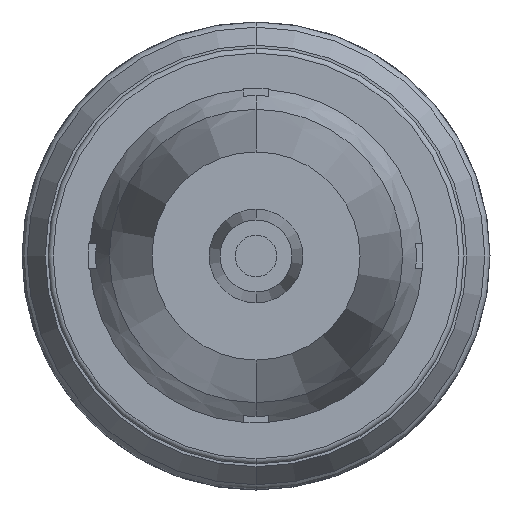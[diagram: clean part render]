
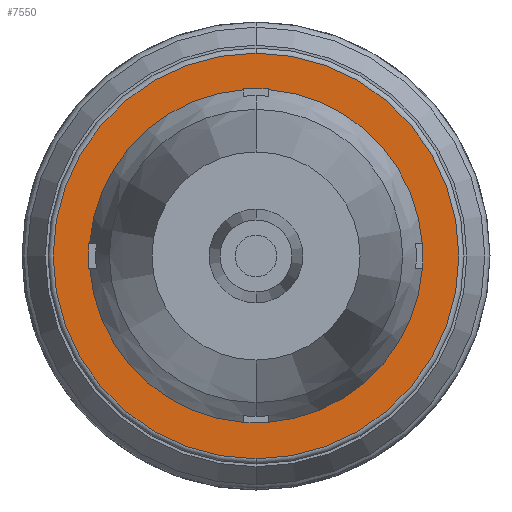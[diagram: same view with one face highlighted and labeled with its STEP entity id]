
A CAD part, front view. The second image highlights one B-rep face of the part: STEP entity #7550.
In plain terms, the highlighted planar face has unit normal (0, -1, 0).
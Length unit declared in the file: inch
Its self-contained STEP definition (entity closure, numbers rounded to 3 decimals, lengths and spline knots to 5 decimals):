
#1331 = CARTESIAN_POINT ( 'NONE',  ( 0.12125, 5.5, -1.60481 ) ) ;
#1332 = DIRECTION ( 'NONE',  ( -0.001, 0., 1. ) ) ;
#1333 = VECTOR ( 'NONE', #1332, 39.37008 ) ;
#1334 = CARTESIAN_POINT ( 'NONE',  ( 0.12125, 5.5, -1.60481 ) ) ;
#1335 = LINE ( 'NONE', #1334, #1333 ) ;
#1371 = CARTESIAN_POINT ( 'NONE',  ( -0.11712, 5.5, -1.60481 ) ) ;
#1372 = DIRECTION ( 'NONE',  ( 1., 0., 0. ) ) ;
#1373 = VECTOR ( 'NONE', #1372, 39.37008 ) ;
#1374 = CARTESIAN_POINT ( 'NONE',  ( -0.11712, 5.5, -1.60481 ) ) ;
#1375 = LINE ( 'NONE', #1374, #1373 ) ;
#4362 = CARTESIAN_POINT ( 'NONE',  ( -0.12132, 5.5, 1.599 ) ) ;
#4829 = CARTESIAN_POINT ( 'NONE',  ( 0., 5.5, 1.95 ) ) ;
#4884 = CARTESIAN_POINT ( 'NONE',  ( 0., 5.5, -1.95 ) ) ;
#4885 = DIRECTION ( 'NONE',  ( 0., 0., 1. ) ) ;
#4886 = DIRECTION ( 'NONE',  ( 0., -1., 0. ) ) ;
#4887 = CARTESIAN_POINT ( 'NONE',  ( 0., 5.5, 0. ) ) ;
#4888 = AXIS2_PLACEMENT_3D ( 'NONE', #4887, #4886, #4885 ) ;
#4894 = CIRCLE ( 'NONE', #4888, 1.95 ) ;
#5235 = DIRECTION ( 'NONE',  ( -1., 0., -0.001 ) ) ;
#5236 = VECTOR ( 'NONE', #5235, 39.37008 ) ;
#5237 = CARTESIAN_POINT ( 'NONE',  ( -0.11938, 5.5, 0.11916 ) ) ;
#5238 = LINE ( 'NONE', #5237, #5236 ) ;
#5239 = CARTESIAN_POINT ( 'NONE',  ( -1.60863, 5.5, 0.1174 ) ) ;
#5240 = DIRECTION ( 'NONE',  ( 0., 0., -1. ) ) ;
#5241 = VECTOR ( 'NONE', #5240, 39.37008 ) ;
#5242 = CARTESIAN_POINT ( 'NONE',  ( -1.60863, 5.5, 0.1174 ) ) ;
#5243 = LINE ( 'NONE', #5242, #5241 ) ;
#5304 = CARTESIAN_POINT ( 'NONE',  ( -1.60863, 5.5, -0.12111 ) ) ;
#5305 = DIRECTION ( 'NONE',  ( -1., 0., -0.001 ) ) ;
#5306 = VECTOR ( 'NONE', #5305, 39.37008 ) ;
#5307 = CARTESIAN_POINT ( 'NONE',  ( -0.11907, 5.5, -0.11926 ) ) ;
#5308 = LINE ( 'NONE', #5307, #5306 ) ;
#5309 = CARTESIAN_POINT ( 'NONE',  ( -1.59902, 5.5, -0.1211 ) ) ;
#5310 = DIRECTION ( 'NONE',  ( 0., 0., -1. ) ) ;
#5311 = DIRECTION ( 'NONE',  ( 0., -1., 0. ) ) ;
#5312 = AXIS2_PLACEMENT_3D ( 'NONE', #5314, #5311, #5310 ) ;
#5313 = CIRCLE ( 'NONE', #5312, 1.60359 ) ;
#5314 = CARTESIAN_POINT ( 'NONE',  ( 0., 5.5, 0. ) ) ;
#5315 = DIRECTION ( 'NONE',  ( -0.001, 0., 1. ) ) ;
#5316 = VECTOR ( 'NONE', #5315, 39.37008 ) ;
#5317 = CARTESIAN_POINT ( 'NONE',  ( -0.11712, 5.5, -1.60481 ) ) ;
#5318 = LINE ( 'NONE', #5317, #5316 ) ;
#5319 = DIRECTION ( 'NONE',  ( 0., 0., 1. ) ) ;
#5320 = DIRECTION ( 'NONE',  ( 0., -1., 0. ) ) ;
#5321 = AXIS2_PLACEMENT_3D ( 'NONE', #5326, #5320, #5319 ) ;
#5322 = CIRCLE ( 'NONE', #5321, 1.95 ) ;
#5323 = DIRECTION ( 'NONE',  ( 0., 0., 1. ) ) ;
#5324 = DIRECTION ( 'NONE',  ( 0., 1., 0. ) ) ;
#5325 = AXIS2_PLACEMENT_3D ( 'NONE', #5327, #5324, #5323 ) ;
#5326 = CARTESIAN_POINT ( 'NONE',  ( 0., 5.5, 0. ) ) ;
#5327 = CARTESIAN_POINT ( 'NONE',  ( 0., 5.5, 0. ) ) ;
#5328 = PLANE ( 'NONE',  #5325 ) ;
#5329 = FACE_BOUND ( 'NONE', #7700, .T. ) ;
#5333 = FACE_OUTER_BOUND ( 'NONE', #7747, .T. ) ;
#5367 = DIRECTION ( 'NONE',  ( 1., 0., 0. ) ) ;
#5368 = VECTOR ( 'NONE', #5367, 39.37008 ) ;
#5369 = CARTESIAN_POINT ( 'NONE',  ( -0.12133, 5.5, 1.60717 ) ) ;
#5370 = LINE ( 'NONE', #5369, #5368 ) ;
#5371 = CARTESIAN_POINT ( 'NONE',  ( -0.12133, 5.5, 1.60717 ) ) ;
#5372 = DIRECTION ( 'NONE',  ( -0.001, 0., 1. ) ) ;
#5373 = VECTOR ( 'NONE', #5372, 39.37008 ) ;
#5374 = CARTESIAN_POINT ( 'NONE',  ( -0.11938, 5.5, 0.11916 ) ) ;
#5375 = LINE ( 'NONE', #5374, #5373 ) ;
#5689 = CARTESIAN_POINT ( 'NONE',  ( -1.59929, 5.5, 0.11741 ) ) ;
#5690 = CARTESIAN_POINT ( 'NONE',  ( -0.11713, 5.5, -1.59931 ) ) ;
#5691 = CARTESIAN_POINT ( 'NONE',  ( 0.12125, 5.5, -1.599 ) ) ;
#5692 = DIRECTION ( 'NONE',  ( 0., 0., -1. ) ) ;
#5693 = DIRECTION ( 'NONE',  ( 0., -1., 0. ) ) ;
#5694 = CARTESIAN_POINT ( 'NONE',  ( 0., 5.5, 0. ) ) ;
#5695 = AXIS2_PLACEMENT_3D ( 'NONE', #5694, #5693, #5692 ) ;
#5696 = CIRCLE ( 'NONE', #5695, 1.60359 ) ;
#5701 = CIRCLE ( 'NONE', #5790, 1.60359 ) ;
#5787 = DIRECTION ( 'NONE',  ( 0., 0., -1. ) ) ;
#5788 = DIRECTION ( 'NONE',  ( 0., -1., 0. ) ) ;
#5789 = CARTESIAN_POINT ( 'NONE',  ( 0., 5.5, 0. ) ) ;
#5790 = AXIS2_PLACEMENT_3D ( 'NONE', #5789, #5788, #5787 ) ;
#5804 = DIRECTION ( 'NONE',  ( -0.001, 0., 1. ) ) ;
#5805 = VECTOR ( 'NONE', #5804, 39.37008 ) ;
#5806 = CARTESIAN_POINT ( 'NONE',  ( 0.11913, 5.5, 0.11944 ) ) ;
#5807 = LINE ( 'NONE', #5806, #5805 ) ;
#5808 = CARTESIAN_POINT ( 'NONE',  ( 1.59901, 5.5, 0.12118 ) ) ;
#6225 = CARTESIAN_POINT ( 'NONE',  ( 0.11729, 5.5, 1.60717 ) ) ;
#6226 = CARTESIAN_POINT ( 'NONE',  ( 0.1173, 5.5, 1.5993 ) ) ;
#6227 = CARTESIAN_POINT ( 'NONE',  ( 1.59931, 5.5, -0.11712 ) ) ;
#6228 = DIRECTION ( 'NONE',  ( -1., 0., -0.001 ) ) ;
#6229 = VECTOR ( 'NONE', #6228, 39.37008 ) ;
#6230 = CARTESIAN_POINT ( 'NONE',  ( 1.60469, 5.5, -0.11711 ) ) ;
#6231 = LINE ( 'NONE', #6230, #6229 ) ;
#6258 = CARTESIAN_POINT ( 'NONE',  ( 1.60469, 5.5, 0.12119 ) ) ;
#6259 = DIRECTION ( 'NONE',  ( -1., 0., -0.001 ) ) ;
#6260 = VECTOR ( 'NONE', #6259, 39.37008 ) ;
#6261 = CARTESIAN_POINT ( 'NONE',  ( 1.60469, 5.5, 0.12119 ) ) ;
#6262 = LINE ( 'NONE', #6261, #6260 ) ;
#6324 = CARTESIAN_POINT ( 'NONE',  ( 1.60469, 5.5, -0.11711 ) ) ;
#6325 = DIRECTION ( 'NONE',  ( 0., 0., -1. ) ) ;
#6326 = VECTOR ( 'NONE', #6325, 39.37008 ) ;
#6327 = CARTESIAN_POINT ( 'NONE',  ( 1.60469, 5.5, 0.12119 ) ) ;
#6328 = LINE ( 'NONE', #6327, #6326 ) ;
#6384 = DIRECTION ( 'NONE',  ( 0., 0., -1. ) ) ;
#6385 = DIRECTION ( 'NONE',  ( 0., -1., 0. ) ) ;
#6386 = CARTESIAN_POINT ( 'NONE',  ( 0., 5.5, 0. ) ) ;
#6387 = AXIS2_PLACEMENT_3D ( 'NONE', #6386, #6385, #6384 ) ;
#6388 = CIRCLE ( 'NONE', #6387, 1.60359 ) ;
#7134 = VERTEX_POINT ( 'NONE', #4362 ) ;
#7330 = EDGE_CURVE ( 'NONE', #7331, #7332, #4894, .T. ) ;
#7331 = VERTEX_POINT ( 'NONE', #4884 ) ;
#7332 = VERTEX_POINT ( 'NONE', #4829 ) ;
#7542 = ORIENTED_EDGE ( 'NONE', *, *, #7543, .T. ) ;
#7543 = EDGE_CURVE ( 'NONE', #7134, #7544, #5375, .T. ) ;
#7544 = VERTEX_POINT ( 'NONE', #5371 ) ;
#7545 = ORIENTED_EDGE ( 'NONE', *, *, #7546, .T. ) ;
#7546 = EDGE_CURVE ( 'NONE', #7544, #7780, #5370, .T. ) ;
#7550 = ADVANCED_FACE ( 'NONE', ( #5333, #5329 ), #5328, .F. ) ;
#7551 = ORIENTED_EDGE ( 'NONE', *, *, #7552, .T. ) ;
#7552 = EDGE_CURVE ( 'NONE', #7332, #7331, #5322, .T. ) ;
#7553 = ORIENTED_EDGE ( 'NONE', *, *, #7554, .T. ) ;
#7554 = EDGE_CURVE ( 'NONE', #7945, #7746, #5318, .T. ) ;
#7555 = ORIENTED_EDGE ( 'NONE', *, *, #7556, .F. ) ;
#7556 = EDGE_CURVE ( 'NONE', #7557, #7746, #5313, .T. ) ;
#7557 = VERTEX_POINT ( 'NONE', #5309 ) ;
#7558 = ORIENTED_EDGE ( 'NONE', *, *, #7559, .T. ) ;
#7559 = EDGE_CURVE ( 'NONE', #7557, #7560, #5308, .T. ) ;
#7560 = VERTEX_POINT ( 'NONE', #5304 ) ;
#7561 = ORIENTED_EDGE ( 'NONE', *, *, #7562, .F. ) ;
#7562 = EDGE_CURVE ( 'NONE', #7563, #7560, #5243, .T. ) ;
#7563 = VERTEX_POINT ( 'NONE', #5239 ) ;
#7564 = ORIENTED_EDGE ( 'NONE', *, *, #7565, .F. ) ;
#7565 = EDGE_CURVE ( 'NONE', #7748, #7563, #5238, .T. ) ;
#7698 = VERTEX_POINT ( 'NONE', #5808 ) ;
#7699 = ORIENTED_EDGE ( 'NONE', *, *, #7330, .T. ) ;
#7700 = EDGE_LOOP ( 'NONE', ( #7701, #7781, #7769, #7772, #7775, #7778, #7940, #7943, #7553, #7555, #7558, #7561, #7564, #7707, #7542, #7545 ) ) ;
#7701 = ORIENTED_EDGE ( 'NONE', *, *, #7702, .F. ) ;
#7702 = EDGE_CURVE ( 'NONE', #7779, #7780, #5807, .T. ) ;
#7707 = ORIENTED_EDGE ( 'NONE', *, *, #7708, .F. ) ;
#7708 = EDGE_CURVE ( 'NONE', #7134, #7748, #5701, .T. ) ;
#7744 = EDGE_CURVE ( 'NONE', #7745, #7777, #5696, .T. ) ;
#7745 = VERTEX_POINT ( 'NONE', #5691 ) ;
#7746 = VERTEX_POINT ( 'NONE', #5690 ) ;
#7747 = EDGE_LOOP ( 'NONE', ( #7551, #7699 ) ) ;
#7748 = VERTEX_POINT ( 'NONE', #5689 ) ;
#7769 = ORIENTED_EDGE ( 'NONE', *, *, #7770, .F. ) ;
#7770 = EDGE_CURVE ( 'NONE', #7771, #7698, #6262, .T. ) ;
#7771 = VERTEX_POINT ( 'NONE', #6258 ) ;
#7772 = ORIENTED_EDGE ( 'NONE', *, *, #7773, .T. ) ;
#7773 = EDGE_CURVE ( 'NONE', #7771, #7774, #6328, .T. ) ;
#7774 = VERTEX_POINT ( 'NONE', #6324 ) ;
#7775 = ORIENTED_EDGE ( 'NONE', *, *, #7776, .T. ) ;
#7776 = EDGE_CURVE ( 'NONE', #7774, #7777, #6231, .T. ) ;
#7777 = VERTEX_POINT ( 'NONE', #6227 ) ;
#7778 = ORIENTED_EDGE ( 'NONE', *, *, #7744, .F. ) ;
#7779 = VERTEX_POINT ( 'NONE', #6226 ) ;
#7780 = VERTEX_POINT ( 'NONE', #6225 ) ;
#7781 = ORIENTED_EDGE ( 'NONE', *, *, #7782, .F. ) ;
#7782 = EDGE_CURVE ( 'NONE', #7698, #7779, #6388, .T. ) ;
#7940 = ORIENTED_EDGE ( 'NONE', *, *, #7941, .F. ) ;
#7941 = EDGE_CURVE ( 'NONE', #7942, #7745, #1335, .T. ) ;
#7942 = VERTEX_POINT ( 'NONE', #1331 ) ;
#7943 = ORIENTED_EDGE ( 'NONE', *, *, #7944, .F. ) ;
#7944 = EDGE_CURVE ( 'NONE', #7945, #7942, #1375, .T. ) ;
#7945 = VERTEX_POINT ( 'NONE', #1371 ) ;
